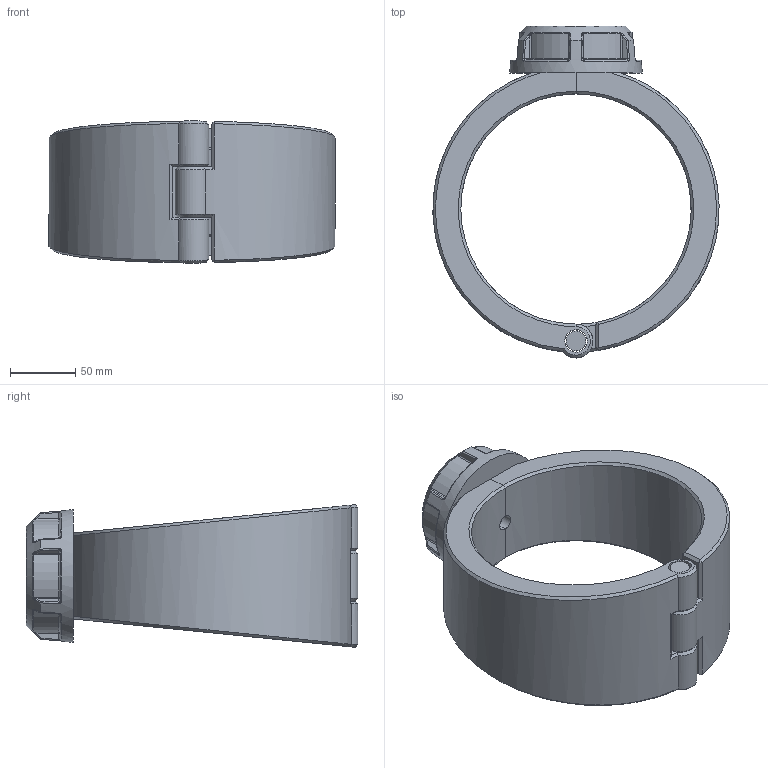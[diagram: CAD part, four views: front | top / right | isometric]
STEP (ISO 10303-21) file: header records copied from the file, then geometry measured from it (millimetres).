
FILE_DESCRIPTION(/* description */ ('Plassadle Threaded 177x3/4'''''),/* implementation_level */ '2;1');
FILE_NAME(/* name */ 'C:\Users\comp2\Dropbox\99-16-3568-Processing\Mechanical Fittings\16300\stp\163000177007.stp',/* time_stamp */ '2022-02-03T11:51:53+00:00',/* author */ ('comp2'),/* organization */ (''),/* preprocessor_version */ 'ST-DEVELOPER v17.2',/* originating_system */ 'Autodesk Inventor 2019',/* authorisation */ '');
FILE_SCHEMA (('AUTOMOTIVE_DESIGN { 1 0 10303 214 3 1 1 }'));
Length unit declared in the file: millimetre
Products named in the file (1): 163000177007
Bounding box: 219.89 x 255 x 109.6 mm (x, y, z)
Volume: 1354855.9 mm3; surface area: 177952.5 mm2
Topology: 4 solids, 4 shells, 203 faces, 486 edges, 293 vertices
Faces by surface type: bspline 58, plane 53, cylinder 47, torus 18, cone 15, sphere 12
Full cylindrical faces by diameter (mm): 12.059 x1, 15.3 x1, 17.3 x3, 20.499 x1, 24.117 x1, 36.175 x1
Entity records: 8250 total; most frequent: CARTESIAN_POINT 3903, ORIENTED_EDGE 972, DIRECTION 781, EDGE_CURVE 486, AXIS2_PLACEMENT_3D 330, VERTEX_POINT 293, EDGE_LOOP 213, FACE_OUTER_BOUND 203
